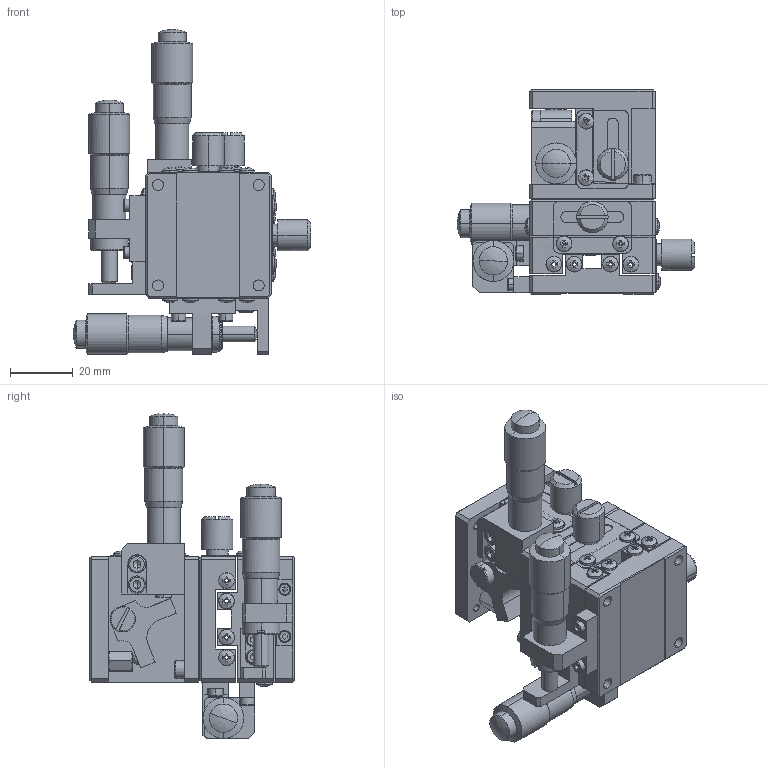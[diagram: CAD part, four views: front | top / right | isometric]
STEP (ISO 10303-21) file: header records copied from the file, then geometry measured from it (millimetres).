
FILE_DESCRIPTION (( 'STEP AP214' ), '1' );
FILE_NAME ('LD40.STEP', '2022-09-11T04:13:24', ( '' ), ( '' ), 'SwSTEP 2.0', 'SolidWorks 2017', '' );
FILE_SCHEMA (( 'AUTOMOTIVE_DESIGN' ));
Length unit declared in the file: millimetre
Products named in the file (1): LD40
Bounding box: 75.6 x 65 x 103.46 mm (x, y, z)
Surface area: 42989 mm2 (no closed solid volume)
Topology: 0 solids, 31 shells, 971 faces, 2863 edges, 1883 vertices
Faces by surface type: plane 573, cylinder 171, cone 167, bspline 52, torus 8
Entity records: 39973 total; most frequent: CARTESIAN_POINT 16056, ORIENTED_EDGE 4917, DIRECTION 4408, EDGE_CURVE 2805, VERTEX_POINT 1883, LINE 1536, VECTOR 1536, AXIS2_PLACEMENT_3D 1436
